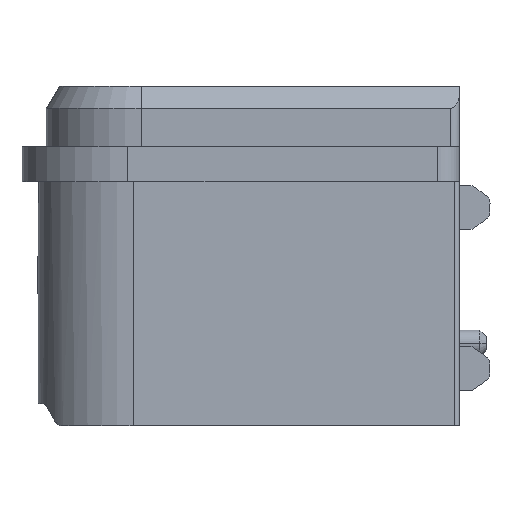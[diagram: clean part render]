
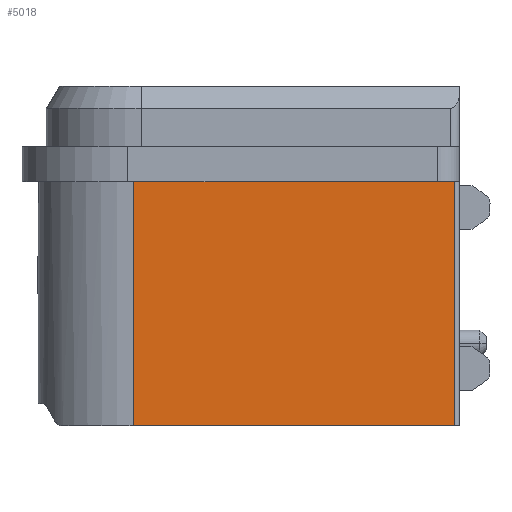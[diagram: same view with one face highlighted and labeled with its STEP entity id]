
A CAD part, left-side view. The second image highlights one B-rep face of the part: STEP entity #5018.
In plain terms, the highlighted planar face has unit normal (-1, 0, 0).
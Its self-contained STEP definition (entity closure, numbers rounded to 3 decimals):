
#3475=CARTESIAN_POINT('',(-66.335,9.985,-13.765));
#3476=VERTEX_POINT('',#3475);
#3484=CARTESIAN_POINT('',(-66.335,2.695,-13.765));
#3485=VERTEX_POINT('',#3484);
#3486=CARTESIAN_POINT('',(-66.335,2.725,-13.765));
#3487=DIRECTION('',(0.0,1.0,0.));
#3488=VECTOR('',#3487,1.0);
#3489=LINE('',#3486,#3488);
#3490=EDGE_CURVE('no 11697',#3485,#3476,#3489,.T.);
#3783=CARTESIAN_POINT('',(-66.335,2.695,-19.295));
#3784=VERTEX_POINT('',#3783);
#3785=CARTESIAN_POINT('',(-66.335,2.695,-19.295));
#3786=DIRECTION('',(0.0,0.,1.0));
#3787=VECTOR('',#3786,1.0);
#3788=LINE('',#3785,#3787);
#3789=EDGE_CURVE('no 1429',#3784,#3485,#3788,.T.);
#3831=CARTESIAN_POINT('',(-66.335,9.985,-19.295));
#3832=VERTEX_POINT('',#3831);
#3833=CARTESIAN_POINT('',(-66.335,2.725,-19.295));
#3834=DIRECTION('',(0.0,1.0,0.));
#3835=VECTOR('',#3834,1.0);
#3836=LINE('',#3833,#3835);
#3837=EDGE_CURVE('no 21808',#3784,#3832,#3836,.T.);
#4977=CARTESIAN_POINT('',(-66.335,9.985,-13.765));
#4978=DIRECTION('',(0.0,0.,-1.0));
#4979=VECTOR('',#4978,1.0);
#4980=LINE('',#4977,#4979);
#4981=EDGE_CURVE('no 486',#3476,#3832,#4980,.T.);
#5007=ORIENTED_EDGE('no 23562',*,*,#3490,.T.);
#5008=ORIENTED_EDGE('no 21116',*,*,#4981,.T.);
#5009=ORIENTED_EDGE('no 45790',*,*,#3837,.F.);
#5010=ORIENTED_EDGE('no 40285',*,*,#3789,.T.);
#5011=EDGE_LOOP('',(#5007,#5008,#5009,#5010));
#5012=FACE_OUTER_BOUND('',#5011,.T.);
#5013=CARTESIAN_POINT('',(-66.335,2.625,-13.765));
#5014=DIRECTION('',(-1.0,0.0,0.0));
#5015=DIRECTION('',(0.0,0.0,1.0));
#5016=AXIS2_PLACEMENT_3D('',#5013,#5014,#5015);
#5017=PLANE('',#5016);
#5018=ADVANCED_FACE('no 30027',(#5012),#5017,.T.);
